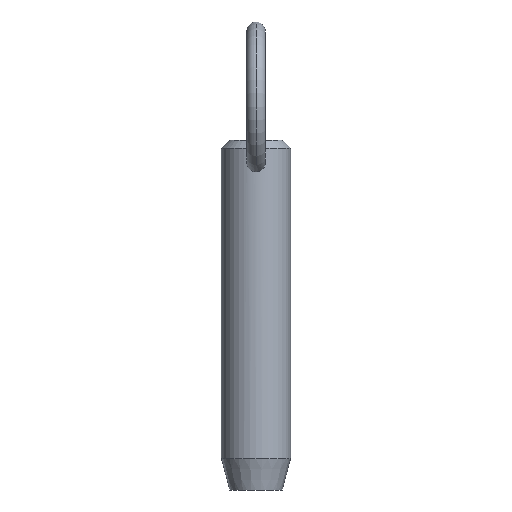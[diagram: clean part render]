
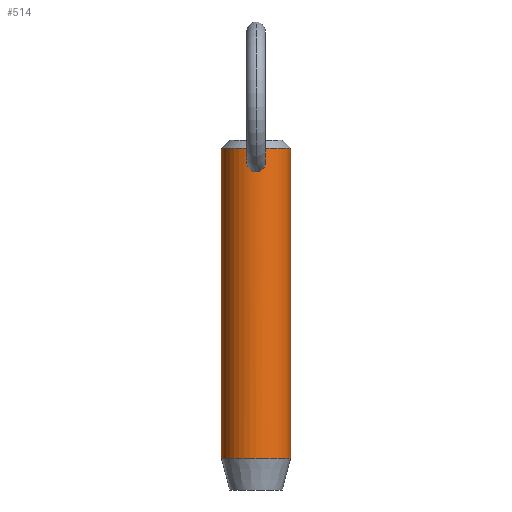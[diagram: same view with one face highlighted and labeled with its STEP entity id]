
A CAD part, front view. The second image highlights one B-rep face of the part: STEP entity #514.
In plain terms, the highlighted cylindrical face has radius 5.55 mm (diameter 11.1 mm), a partial arc.
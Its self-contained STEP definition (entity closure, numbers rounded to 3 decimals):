
#10 = CIRCLE ( 'NONE', #240, 5.55 ) ;
#19 = FACE_OUTER_BOUND ( 'NONE', #209, .T. ) ;
#23 = CARTESIAN_POINT ( 'NONE',  ( 1.295, -5.397, 39.382 ) ) ;
#25 = CARTESIAN_POINT ( 'NONE',  ( -5.55, 0., 35.6 ) ) ;
#26 = VERTEX_POINT ( 'NONE', #420 ) ;
#28 = CARTESIAN_POINT ( 'NONE',  ( 0.214, -5.547, 40.328 ) ) ;
#29 = CARTESIAN_POINT ( 'NONE',  ( -0.107, -5.55, 36.877 ) ) ;
#31 = LINE ( 'NONE', #370, #124 ) ;
#45 = CARTESIAN_POINT ( 'NONE',  ( -1.294, -5.398, 39.386 ) ) ;
#48 = CIRCLE ( 'NONE', #453, 5.55 ) ;
#50 = DIRECTION ( 'NONE',  ( 0., 0., -1. ) ) ;
#51 = CARTESIAN_POINT ( 'NONE',  ( 0., 0., -9.2 ) ) ;
#53 = ORIENTED_EDGE ( 'NONE', *, *, #84, .T. ) ;
#57 = CARTESIAN_POINT ( 'NONE',  ( 1.26, -5.407, 37.543 ) ) ;
#58 = CARTESIAN_POINT ( 'NONE',  ( 0., -5.55, 36.877 ) ) ;
#72 = CARTESIAN_POINT ( 'NONE',  ( -1.477, -5.35, 38.142 ) ) ;
#73 = CARTESIAN_POINT ( 'NONE',  ( -0.211, -5.547, 40.329 ) ) ;
#76 = VERTEX_POINT ( 'NONE', #456 ) ;
#77 = CARTESIAN_POINT ( 'NONE',  ( -1.503, -5.343, 38.459 ) ) ;
#78 = CARTESIAN_POINT ( 'NONE',  ( -1.5, -5.343, 38.353 ) ) ;
#81 = FACE_BOUND ( 'NONE', #388, .T. ) ;
#84 = EDGE_CURVE ( 'NONE', #356, #76, #10, .T. ) ;
#87 = DIRECTION ( 'NONE',  ( 0., 0., -1. ) ) ;
#95 = ORIENTED_EDGE ( 'NONE', *, *, #507, .F. ) ;
#97 = CARTESIAN_POINT ( 'NONE',  ( 0.523, -5.526, 36.966 ) ) ;
#113 = B_SPLINE_CURVE_WITH_KNOTS ( 'NONE', 3,
 ( #274, #29, #470, #315, #526, #191, #407, #116, #324, #122, #479, #156, #72, #78, #77, #365, #241, #45, #323, #242, #361, #322, #153, #73, #408, #198 ),
 .UNSPECIFIED., .F., .F.,
 ( 4, 2, 2, 2, 2, 2, 2, 2, 2, 2, 2, 2, 4 ),
 ( 0.01, 0.01, 0.01, 0.011, 0.011, 0.012, 0.012, 0.012, 0.013, 0.013, 0.014, 0.014, 0.015 ),
 .UNSPECIFIED. ) ;
#116 = CARTESIAN_POINT ( 'NONE',  ( -0.976, -5.464, 37.231 ) ) ;
#122 = CARTESIAN_POINT ( 'NONE',  ( -1.26, -5.407, 37.542 ) ) ;
#124 = VECTOR ( 'NONE', #206, 1000. ) ;
#133 = DIRECTION ( 'NONE',  ( 1., 0., 0. ) ) ;
#135 = CARTESIAN_POINT ( 'NONE',  ( 1.194, -5.422, 39.571 ) ) ;
#137 = CARTESIAN_POINT ( 'NONE',  ( 1.486, -5.347, 38.774 ) ) ;
#139 = CARTESIAN_POINT ( 'NONE',  ( 0., -5.55, 40.345 ) ) ;
#141 = CARTESIAN_POINT ( 'NONE',  ( 0.107, -5.55, 36.877 ) ) ;
#153 = CARTESIAN_POINT ( 'NONE',  ( -0.416, -5.535, 40.267 ) ) ;
#156 = CARTESIAN_POINT ( 'NONE',  ( -1.455, -5.356, 38.036 ) ) ;
#161 = VERTEX_POINT ( 'NONE', #345 ) ;
#164 = DIRECTION ( 'NONE',  ( 0., 0., 1. ) ) ;
#167 = VERTEX_POINT ( 'NONE', #347 ) ;
#169 = CARTESIAN_POINT ( 'NONE',  ( 1.5, -5.343, 38.354 ) ) ;
#173 = CARTESIAN_POINT ( 'NONE',  ( 0.421, -5.535, 36.932 ) ) ;
#187 = EDGE_CURVE ( 'NONE', #167, #161, #509, .T. ) ;
#191 = CARTESIAN_POINT ( 'NONE',  ( -0.716, -5.504, 37.052 ) ) ;
#198 = CARTESIAN_POINT ( 'NONE',  ( 0., -5.55, 40.345 ) ) ;
#201 = CYLINDRICAL_SURFACE ( 'NONE', #369, 5.55 ) ;
#205 = EDGE_CURVE ( 'NONE', #76, #26, #492, .T. ) ;
#206 = DIRECTION ( 'NONE',  ( 0., 0., -1. ) ) ;
#209 = EDGE_LOOP ( 'NONE', ( #95, #53, #424, #272 ) ) ;
#210 = DIRECTION ( 'NONE',  ( -1., 0., 0. ) ) ;
#211 = ORIENTED_EDGE ( 'NONE', *, *, #187, .T. ) ;
#221 = CARTESIAN_POINT ( 'NONE',  ( 0.786, -5.497, 40.057 ) ) ;
#224 = CARTESIAN_POINT ( 'NONE',  ( 1.055, -5.449, 37.305 ) ) ;
#236 = EDGE_CURVE ( 'NONE', #161, #167, #113, .T. ) ;
#240 = AXIS2_PLACEMENT_3D ( 'NONE', #333, #87, #133 ) ;
#241 = CARTESIAN_POINT ( 'NONE',  ( -1.44, -5.36, 38.987 ) ) ;
#242 = CARTESIAN_POINT ( 'NONE',  ( -0.939, -5.472, 39.91 ) ) ;
#244 = VECTOR ( 'NONE', #393, 1000. ) ;
#261 = CARTESIAN_POINT ( 'NONE',  ( 1.363, -5.38, 37.734 ) ) ;
#264 = CARTESIAN_POINT ( 'NONE',  ( 0.941, -5.471, 39.907 ) ) ;
#272 = ORIENTED_EDGE ( 'NONE', *, *, #472, .T. ) ;
#274 = CARTESIAN_POINT ( 'NONE',  ( 0., -5.55, 36.877 ) ) ;
#307 = CARTESIAN_POINT ( 'NONE',  ( 1.477, -5.35, 38.144 ) ) ;
#312 = CARTESIAN_POINT ( 'NONE',  ( 0.417, -5.535, 40.267 ) ) ;
#315 = CARTESIAN_POINT ( 'NONE',  ( -0.42, -5.535, 36.932 ) ) ;
#322 = CARTESIAN_POINT ( 'NONE',  ( -0.513, -5.527, 40.223 ) ) ;
#323 = CARTESIAN_POINT ( 'NONE',  ( -1.195, -5.421, 39.571 ) ) ;
#324 = CARTESIAN_POINT ( 'NONE',  ( -1.054, -5.449, 37.304 ) ) ;
#333 = CARTESIAN_POINT ( 'NONE',  ( 0., 0., 40.65 ) ) ;
#338 = ORIENTED_EDGE ( 'NONE', *, *, #236, .T. ) ;
#342 = CARTESIAN_POINT ( 'NONE',  ( 0.716, -5.504, 37.052 ) ) ;
#345 = CARTESIAN_POINT ( 'NONE',  ( 0., -5.55, 36.877 ) ) ;
#347 = CARTESIAN_POINT ( 'NONE',  ( 0., -5.55, 40.345 ) ) ;
#356 = VERTEX_POINT ( 'NONE', #358 ) ;
#358 = CARTESIAN_POINT ( 'NONE',  ( 5.55, 0., 40.65 ) ) ;
#361 = CARTESIAN_POINT ( 'NONE',  ( -0.785, -5.497, 40.058 ) ) ;
#365 = CARTESIAN_POINT ( 'NONE',  ( -1.485, -5.348, 38.779 ) ) ;
#369 = AXIS2_PLACEMENT_3D ( 'NONE', #454, #50, #458 ) ;
#370 = CARTESIAN_POINT ( 'NONE',  ( 5.55, 0., 35.6 ) ) ;
#379 = CARTESIAN_POINT ( 'NONE',  ( 0.515, -5.527, 40.222 ) ) ;
#383 = CARTESIAN_POINT ( 'NONE',  ( 0.106, -5.55, 40.345 ) ) ;
#386 = CARTESIAN_POINT ( 'NONE',  ( 1.455, -5.356, 38.038 ) ) ;
#388 = EDGE_LOOP ( 'NONE', ( #211, #338 ) ) ;
#393 = DIRECTION ( 'NONE',  ( 0., 0., -1. ) ) ;
#407 = CARTESIAN_POINT ( 'NONE',  ( -0.807, -5.492, 37.105 ) ) ;
#408 = CARTESIAN_POINT ( 'NONE',  ( -0.106, -5.55, 40.345 ) ) ;
#411 = VERTEX_POINT ( 'NONE', #413 ) ;
#413 = CARTESIAN_POINT ( 'NONE',  ( 5.55, 0., -9.2 ) ) ;
#420 = CARTESIAN_POINT ( 'NONE',  ( -5.55, 0., -9.2 ) ) ;
#424 = ORIENTED_EDGE ( 'NONE', *, *, #205, .T. ) ;
#426 = CARTESIAN_POINT ( 'NONE',  ( 1.503, -5.343, 38.459 ) ) ;
#428 = CARTESIAN_POINT ( 'NONE',  ( 0.807, -5.492, 37.106 ) ) ;
#430 = CARTESIAN_POINT ( 'NONE',  ( 1.44, -5.36, 38.986 ) ) ;
#453 = AXIS2_PLACEMENT_3D ( 'NONE', #51, #164, #210 ) ;
#454 = CARTESIAN_POINT ( 'NONE',  ( 0., 0., 35.6 ) ) ;
#456 = CARTESIAN_POINT ( 'NONE',  ( -5.55, 0., 40.65 ) ) ;
#458 = DIRECTION ( 'NONE',  ( -1., 0., 0. ) ) ;
#466 = CARTESIAN_POINT ( 'NONE',  ( 0.213, -5.547, 36.888 ) ) ;
#470 = CARTESIAN_POINT ( 'NONE',  ( -0.212, -5.547, 36.888 ) ) ;
#472 = EDGE_CURVE ( 'NONE', #26, #411, #48, .T. ) ;
#479 = CARTESIAN_POINT ( 'NONE',  ( -1.362, -5.381, 37.732 ) ) ;
#492 = LINE ( 'NONE', #25, #244 ) ;
#505 = CARTESIAN_POINT ( 'NONE',  ( 0.977, -5.464, 37.232 ) ) ;
#507 = EDGE_CURVE ( 'NONE', #356, #411, #31, .T. ) ;
#509 = B_SPLINE_CURVE_WITH_KNOTS ( 'NONE', 3,
 ( #139, #383, #28, #312, #379, #221, #264, #135, #23, #430, #137, #426, #169, #307, #386, #261, #57, #224, #505, #428, #342, #97, #173, #466, #141, #58 ),
 .UNSPECIFIED., .F., .F.,
 ( 4, 2, 2, 2, 2, 2, 2, 2, 2, 2, 2, 2, 4 ),
 ( 0.005, 0.005, 0.005, 0.006, 0.006, 0.007, 0.007, 0.008, 0.008, 0.009, 0.009, 0.009, 0.01 ),
 .UNSPECIFIED. ) ;
#514 = ADVANCED_FACE ( 'NONE', ( #19, #81 ), #201, .T. ) ;
#526 = CARTESIAN_POINT ( 'NONE',  ( -0.523, -5.526, 36.966 ) ) ;
